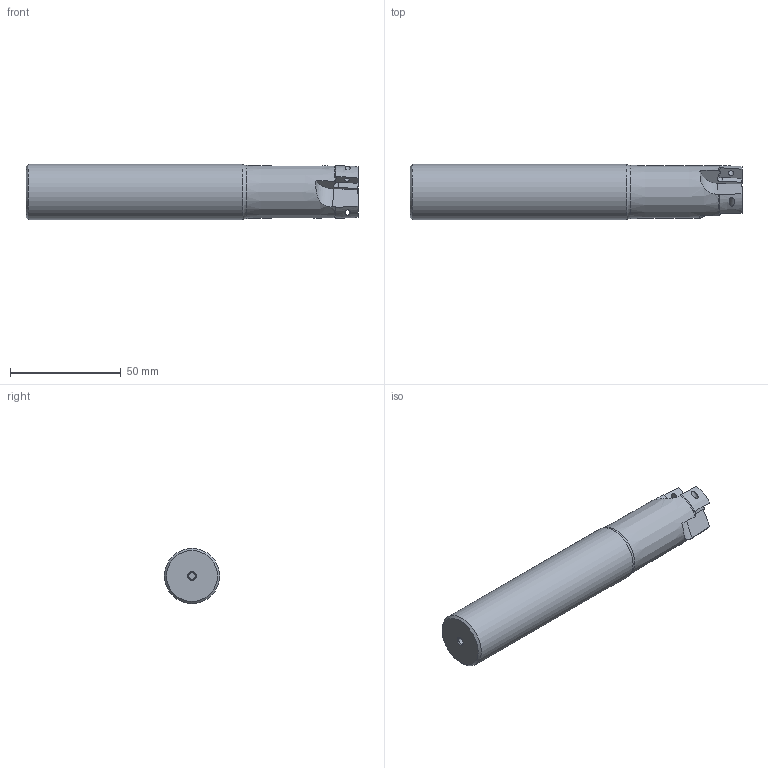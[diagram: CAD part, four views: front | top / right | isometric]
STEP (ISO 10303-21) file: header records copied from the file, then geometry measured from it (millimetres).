
FILE_DESCRIPTION(/* description */ (''),/* implementation_level */ '2;1');
FILE_NAME(/* name */ 'Z:\Проектный отдел\Влад\Фрезы исправления\EAP300R-C25-25-150-3T.stp',/* time_stamp */ '2023-06-02T16:58:22+03:00',/* author */ ('инженер'),/* organization */ (''),/* preprocessor_version */ 'ST-DEVELOPER v18',/* originating_system */ 'Autodesk Inventor 2020',/* authorisation */ '');
FILE_SCHEMA (('AUTOMOTIVE_DESIGN { 1 0 10303 214 3 1 1 }'));
Length unit declared in the file: millimetre
Products named in the file (1): EAP300R-C10-10-120L-1T
Bounding box: 150 x 25 x 25 mm (x, y, z)
Volume: 68330.2 mm3; surface area: 12744.9 mm2
Topology: 1 solids, 1 shells, 50 faces, 150 edges, 104 vertices
Faces by surface type: plane 22, torus 10, cylinder 9, cone 9
Full cylindrical faces by diameter (mm): 2 x1, 2.5 x3, 3 x1, 25 x1
Entity records: 2104 total; most frequent: CARTESIAN_POINT 684, ORIENTED_EDGE 300, DIRECTION 267, EDGE_CURVE 150, AXIS2_PLACEMENT_3D 111, VERTEX_POINT 104, EDGE_LOOP 58, CIRCLE 53
